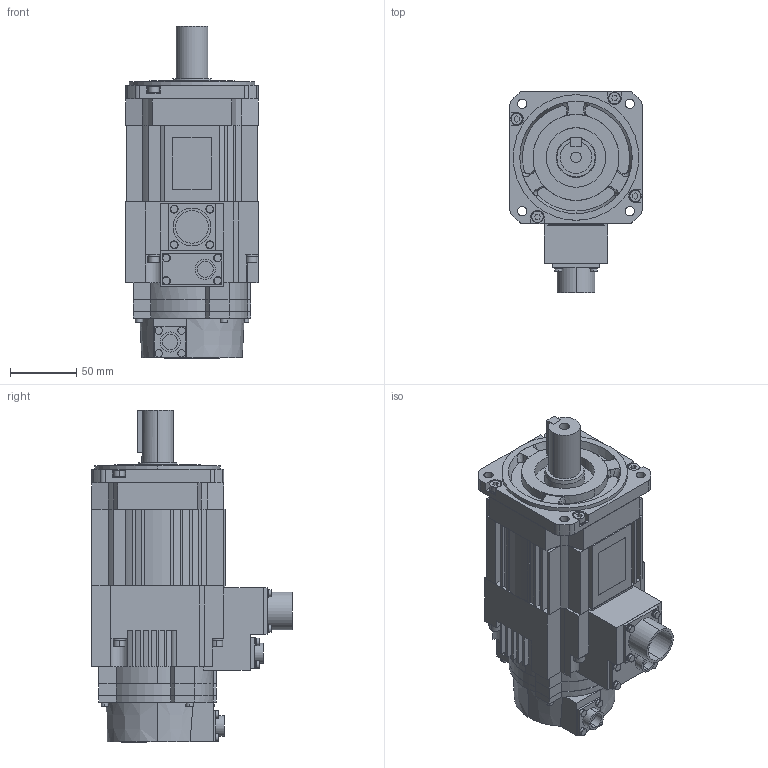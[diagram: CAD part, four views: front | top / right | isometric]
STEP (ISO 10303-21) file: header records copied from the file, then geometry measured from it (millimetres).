
FILE_DESCRIPTION (( 'STEP AP203' ), '1' );
FILE_NAME ('sgm7a_15a6a6c.STEP', '2016-11-12T04:45:58', ( '匠エンジニアリング山之内' ), ( 'TAKUMI-Engniaring' ), 'SwSTEP 2.0', 'SolidWorks 2006303', '' );
FILE_SCHEMA (( 'CONFIG_CONTROL_DESIGN' ));
Length unit declared in the file: millimetre
Products named in the file (3): sgm7a_15a6a6c; sgm7a_15a6a6c_base; sgm7a_15a6a6c_key
Assembly tree (2 placements, depth 2):
  sgm7a_15a6a6c
    sgm7a_15a6a6c_key
    sgm7a_15a6a6c_base
Bounding box: 100 x 152 x 251.1 mm (x, y, z)
Volume: 1708978.6 mm3; surface area: 140822.2 mm2
Topology: 2 solids, 2 shells, 724 faces, 1867 edges, 1234 vertices
Faces by surface type: plane 472, cylinder 233, bspline 12, cone 7
Entity records: 22747 total; most frequent: CARTESIAN_POINT 4398, DIRECTION 3755, ORIENTED_EDGE 3734, EDGE_CURVE 1867, VECTOR 1311, LINE 1311, VERTEX_POINT 1234, AXIS2_PLACEMENT_3D 1222
